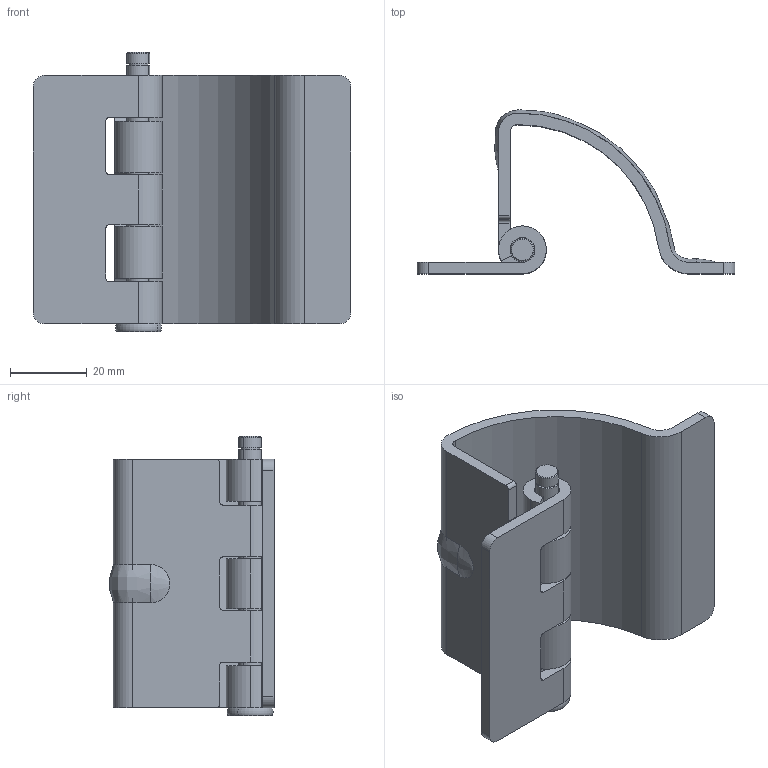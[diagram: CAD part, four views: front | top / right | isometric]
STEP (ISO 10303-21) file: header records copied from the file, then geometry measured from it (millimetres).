
FILE_DESCRIPTION (( 'STEP AP203' ), '1' );
FILE_NAME ('SK2-039-1.STEP', '2020-03-25T01:26:32', ( 'admin' ), ( 'Microsoft' ), 'SwSTEP 2.0', 'SolidWorks 2018', '' );
FILE_SCHEMA (( 'CONFIG_CONTROL_DESIGN' ));
Length unit declared in the file: millimetre
Products named in the file (4): 2-039-1-F3; SK2-039-1; 2-039-1-F1; 2-039-1-F2
Assembly tree (3 placements, depth 2):
  SK2-039-1
    2-039-1-F1
    2-039-1-F2
    2-039-1-F3
Bounding box: 83 x 42.89 x 73 mm (x, y, z)
Volume: 33090 mm3; surface area: 26124.6 mm2
Topology: 6 solids, 6 shells, 97 faces, 248 edges, 164 vertices
Faces by surface type: cylinder 48, plane 41, bspline 4, cone 2, torus 2
Entity records: 4247 total; most frequent: CARTESIAN_POINT 1409, DIRECTION 546, ORIENTED_EDGE 492, EDGE_CURVE 246, AXIS2_PLACEMENT_3D 207, VERTEX_POINT 164, LINE 132, VECTOR 132
